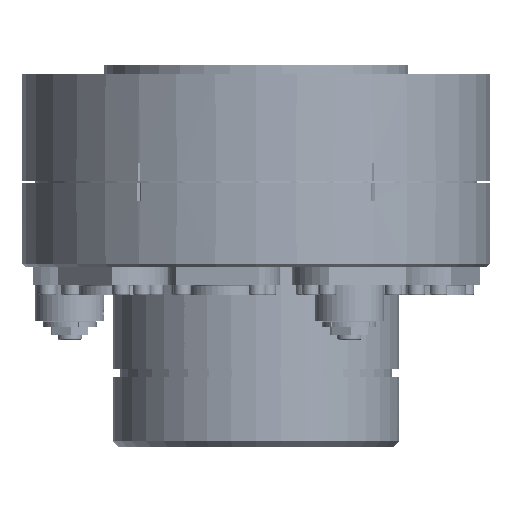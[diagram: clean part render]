
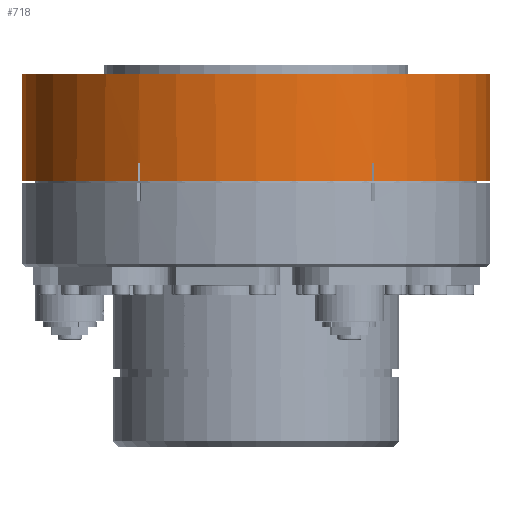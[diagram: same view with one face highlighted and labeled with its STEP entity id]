
A CAD part, front view. The second image highlights one B-rep face of the part: STEP entity #718.
In plain terms, the highlighted cylindrical face has radius 135 mm (diameter 270 mm), a partial arc.
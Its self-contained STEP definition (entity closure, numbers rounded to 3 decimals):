
#718=ADVANCED_FACE('',(#4524),#4525,.T.);
#4524=FACE_OUTER_BOUND('',#11803,.T.);
#4525=CYLINDRICAL_SURFACE('',#11804,135.0);
#11803=EDGE_LOOP('',(#29122,#29123,#29124,#29125,#29126,#29127,#29128,#29129,#29130,#29131,#29132,#29133,#29134,#29135,#29136,#29137));
#11804=AXIS2_PLACEMENT_3D('',#29138,#29139,#29140);
#29122=ORIENTED_EDGE('',*,*,#54614,.F.);
#29123=ORIENTED_EDGE('',*,*,#54615,.T.);
#29124=ORIENTED_EDGE('',*,*,#54616,.T.);
#29125=ORIENTED_EDGE('',*,*,#54617,.T.);
#29126=ORIENTED_EDGE('',*,*,#54618,.T.);
#29127=ORIENTED_EDGE('',*,*,#54619,.T.);
#29128=ORIENTED_EDGE('',*,*,#54620,.T.);
#29129=ORIENTED_EDGE('',*,*,#54621,.T.);
#29130=ORIENTED_EDGE('',*,*,#54622,.T.);
#29131=ORIENTED_EDGE('',*,*,#54623,.T.);
#29132=ORIENTED_EDGE('',*,*,#54624,.T.);
#29133=ORIENTED_EDGE('',*,*,#54625,.T.);
#29134=ORIENTED_EDGE('',*,*,#54626,.T.);
#29135=ORIENTED_EDGE('',*,*,#54627,.T.);
#29136=ORIENTED_EDGE('',*,*,#54628,.F.);
#29137=ORIENTED_EDGE('',*,*,#54629,.F.);
#29138=CARTESIAN_POINT('',(0.,0.,43.5));
#29139=DIRECTION('',(0.,0.,-1.0));
#29140=DIRECTION('',(-1.0,0.,0.));
#54614=EDGE_CURVE('',#70364,#70365,#70366,.T.);
#54615=EDGE_CURVE('',#70364,#70367,#70368,.T.);
#54616=EDGE_CURVE('',#70367,#70369,#70370,.T.);
#54617=EDGE_CURVE('',#70369,#70371,#70372,.T.);
#54618=EDGE_CURVE('',#70371,#70373,#70374,.T.);
#54619=EDGE_CURVE('',#70373,#70375,#70376,.T.);
#54620=EDGE_CURVE('',#70375,#70377,#70378,.T.);
#54621=EDGE_CURVE('',#70377,#70379,#70380,.T.);
#54622=EDGE_CURVE('',#70379,#70381,#70382,.T.);
#54623=EDGE_CURVE('',#70381,#70383,#70384,.T.);
#54624=EDGE_CURVE('',#70383,#70385,#70386,.T.);
#54625=EDGE_CURVE('',#70385,#70387,#70388,.T.);
#54626=EDGE_CURVE('',#70387,#70389,#70390,.T.);
#54627=EDGE_CURVE('',#70389,#70391,#70392,.T.);
#54628=EDGE_CURVE('',#70393,#70391,#70394,.T.);
#54629=EDGE_CURVE('',#70365,#70393,#70395,.T.);
#70364=VERTEX_POINT('',#92056);
#70365=VERTEX_POINT('',#92057);
#70366=LINE('',#92058,#92059);
#70367=VERTEX_POINT('',#92060);
#70368=CIRCLE('',#92061,135.0);
#70369=VERTEX_POINT('',#92062);
#70370=LINE('',#92063,#92064);
#70371=VERTEX_POINT('',#92065);
#70372=CIRCLE('',#92066,135.0);
#70373=VERTEX_POINT('',#92067);
#70374=LINE('',#92068,#92069);
#70375=VERTEX_POINT('',#92070);
#70376=CIRCLE('',#92071,135.0);
#70377=VERTEX_POINT('',#92072);
#70378=LINE('',#92073,#92074);
#70379=VERTEX_POINT('',#92075);
#70380=CIRCLE('',#92076,135.0);
#70381=VERTEX_POINT('',#92077);
#70382=LINE('',#92078,#92079);
#70383=VERTEX_POINT('',#92080);
#70384=CIRCLE('',#92081,135.0);
#70385=VERTEX_POINT('',#92082);
#70386=LINE('',#92083,#92084);
#70387=VERTEX_POINT('',#92085);
#70388=CIRCLE('',#92086,135.0);
#70389=VERTEX_POINT('',#92087);
#70390=LINE('',#92088,#92089);
#70391=VERTEX_POINT('',#92090);
#70392=CIRCLE('',#92091,135.0);
#70393=VERTEX_POINT('',#92092);
#70394=LINE('',#92093,#92094);
#70395=CIRCLE('',#92095,135.0);
#92056=CARTESIAN_POINT('',(-135.0,0.,53.5));
#92057=CARTESIAN_POINT('',(-135.0,0.,105.0));
#92058=CARTESIAN_POINT('',(-135.0,0.,43.5));
#92059=VECTOR('',#118404,1.0);
#92060=CARTESIAN_POINT('',(-134.997,-0.83,53.5));
#92061=AXIS2_PLACEMENT_3D('',#118405,#118406,#118407);
#92062=CARTESIAN_POINT('',(-134.997,-0.83,43.5));
#92063=CARTESIAN_POINT('',(-134.997,-0.83,43.5));
#92064=VECTOR('',#118408,1000.0);
#92065=CARTESIAN_POINT('',(-68.218,-116.496,43.5));
#92066=AXIS2_PLACEMENT_3D('',#118409,#118410,#118411);
#92067=CARTESIAN_POINT('',(-68.218,-116.496,53.5));
#92068=CARTESIAN_POINT('',(-68.218,-116.496,43.5));
#92069=VECTOR('',#118412,1000.0);
#92070=CARTESIAN_POINT('',(-66.78,-117.326,53.5));
#92071=AXIS2_PLACEMENT_3D('',#118413,#118414,#118415);
#92072=CARTESIAN_POINT('',(-66.78,-117.326,43.5));
#92073=CARTESIAN_POINT('',(-66.78,-117.326,43.5));
#92074=VECTOR('',#118416,1000.0);
#92075=CARTESIAN_POINT('',(66.78,-117.326,43.5));
#92076=AXIS2_PLACEMENT_3D('',#118417,#118418,#118419);
#92077=CARTESIAN_POINT('',(66.78,-117.326,53.5));
#92078=CARTESIAN_POINT('',(66.78,-117.326,43.5));
#92079=VECTOR('',#118420,1000.0);
#92080=CARTESIAN_POINT('',(68.218,-116.496,53.5));
#92081=AXIS2_PLACEMENT_3D('',#118421,#118422,#118423);
#92082=CARTESIAN_POINT('',(68.218,-116.496,43.5));
#92083=CARTESIAN_POINT('',(68.218,-116.496,43.5));
#92084=VECTOR('',#118424,1000.0);
#92085=CARTESIAN_POINT('',(134.997,-0.83,43.5));
#92086=AXIS2_PLACEMENT_3D('',#118425,#118426,#118427);
#92087=CARTESIAN_POINT('',(134.997,-0.83,53.5));
#92088=CARTESIAN_POINT('',(134.997,-0.83,43.5));
#92089=VECTOR('',#118428,1000.0);
#92090=CARTESIAN_POINT('',(135.0,0.,53.5));
#92091=AXIS2_PLACEMENT_3D('',#118429,#118430,#118431);
#92092=CARTESIAN_POINT('',(135.0,0.,105.0));
#92093=CARTESIAN_POINT('',(135.0,0.,43.5));
#92094=VECTOR('',#118432,1.0);
#92095=AXIS2_PLACEMENT_3D('',#118433,#118434,#118435);
#118404=DIRECTION('',(0.,0.,1.0));
#118405=CARTESIAN_POINT('',(0.,0.,53.5));
#118406=DIRECTION('',(0.,0.,1.0));
#118407=DIRECTION('',(-1.0,0.,0.));
#118408=DIRECTION('',(0.,0.,-1.0));
#118409=CARTESIAN_POINT('',(0.,0.,43.5));
#118410=DIRECTION('',(0.,0.,1.0));
#118411=DIRECTION('',(-1.0,0.,0.));
#118412=DIRECTION('',(0.,0.,1.0));
#118413=CARTESIAN_POINT('',(0.,0.,53.5));
#118414=DIRECTION('',(0.,0.,1.0));
#118415=DIRECTION('',(-1.0,0.,0.));
#118416=DIRECTION('',(0.,0.,-1.0));
#118417=CARTESIAN_POINT('',(0.,0.,43.5));
#118418=DIRECTION('',(0.,0.,1.0));
#118419=DIRECTION('',(-1.0,0.,0.));
#118420=DIRECTION('',(0.,0.,1.0));
#118421=CARTESIAN_POINT('',(0.,0.,53.5));
#118422=DIRECTION('',(0.,0.,1.0));
#118423=DIRECTION('',(-1.0,0.,0.));
#118424=DIRECTION('',(0.,0.,-1.0));
#118425=CARTESIAN_POINT('',(0.,0.,43.5));
#118426=DIRECTION('',(0.,0.,1.0));
#118427=DIRECTION('',(-1.0,0.,0.));
#118428=DIRECTION('',(0.,0.,1.0));
#118429=CARTESIAN_POINT('',(0.,0.,53.5));
#118430=DIRECTION('',(0.,0.,1.0));
#118431=DIRECTION('',(-1.0,0.,0.));
#118432=DIRECTION('',(0.,0.,-1.0));
#118433=CARTESIAN_POINT('',(0.,0.,105.0));
#118434=DIRECTION('',(0.,0.,1.0));
#118435=DIRECTION('',(-1.0,0.,0.));
